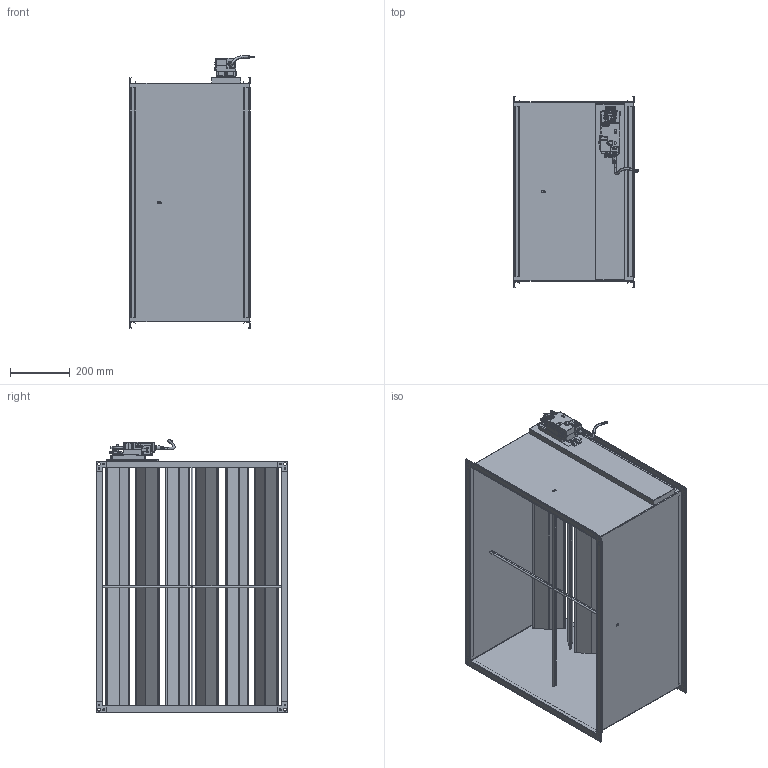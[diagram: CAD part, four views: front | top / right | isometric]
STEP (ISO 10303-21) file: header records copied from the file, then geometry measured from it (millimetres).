
FILE_DESCRIPTION (( 'STEP AP214' ), '1' );
FILE_NAME ('VAV-S800600.STEP', '2025-05-08T11:51:34', ( '' ), ( '' ), 'SwSTEP 2.0', 'SolidWorks 2025', '' );
FILE_SCHEMA (( 'AUTOMOTIVE_DESIGN' ));
Length unit declared in the file: millimetre
Products named in the file (1): VAV-S800600
Bounding box: 420.14 x 641 x 913.69 mm (x, y, z)
Surface area: 4506584.8 mm2 (no closed solid volume)
Topology: 0 solids, 48 shells, 2116 faces, 5528 edges, 3517 vertices
Faces by surface type: plane 1547, cylinder 516, bspline 24, sphere 18, cone 10, torus 1
Full cylindrical faces by diameter (mm): 1 x4, 6 x17, 8 x1, 9 x8, 11 x1, 20 x1, 21 x2
Entity records: 92360 total; most frequent: CARTESIAN_POINT 41466, ORIENTED_EDGE 10841, DIRECTION 7036, EDGE_CURVE 5444, VERTEX_POINT 3491, B_SPLINE_CURVE_WITH_KNOTS 3154, AXIS2_PLACEMENT_3D 2677, EDGE_LOOP 2324
